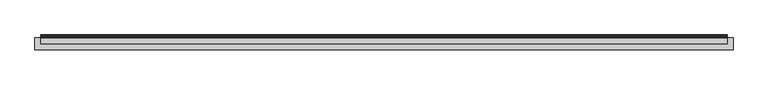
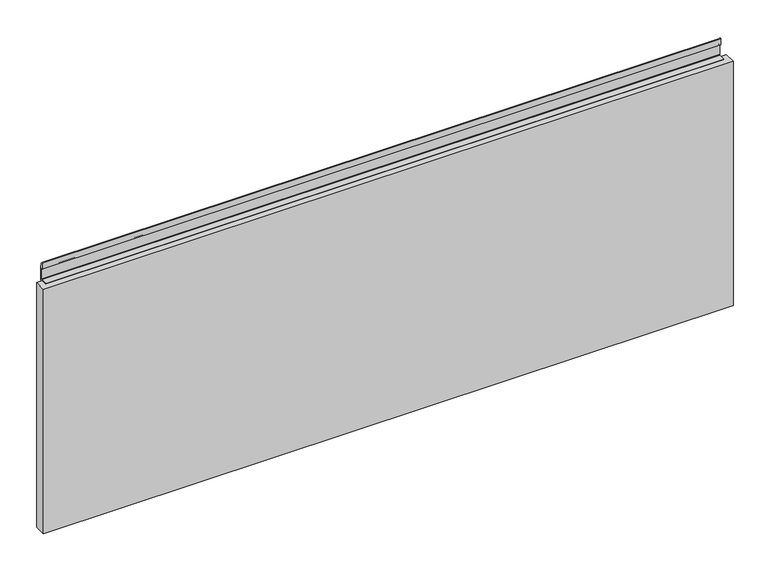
"""IFC4 building model written with IfcOpenShell, lengths in millimetres: furniture geometry, Geiger_GeigerOneCasegoods_WallTileAcceptsTileAbove : Horizontal Veneer 60Wx 1.25Dx 22.5H."""

from ifc_helpers import new_model, si_unit, point, frame, frame_2d, origin, origin_with_axes, place, context, project, spatial, polyline, circle_curve, trimmed, segment, composite_curve, outline, extrude, source, transform, mapped, element, save


def furniture_52d22a10(model_context):
    return source(origin(), model_context, "Body", "SweptSolid", [
        extrude(outline(polyline([(1524.0, 0.0), (1524.0, -26.0), (0.0, -26.0), (0.0, 0.0), (1524.0, 0.0)])), origin_with_axes(), (0.0, 0.0, 1.0), 571.5),
        extrude(outline(composite_curve([segment(polyline([(2.8956, 46.3366), (3.7084, 45.5238), (5.588, 45.5238), (6.4008, 44.7364), (6.4008, 31.3252)]), True, "CONTINUOUS"), segment(trimmed(circle_curve(frame_2d((5.6011704, 31.3252)), 0.7996296), [point((6.4008, 31.3252))], [point((5.0292, 30.7664))], False, "CARTESIAN"), True, "CONTINUOUS"), segment(polyline([(5.0292, 30.7664), (3.5052, 32.2904), (3.5052, 39.2246), (2.6924, 40.012), (0.7874, 40.012), (0.0, 40.8248), (0.0, 72.524), (1.2954, 72.524), (2.8956, 70.9238), (2.8956, 46.3366)]), True, "CONTINUOUS")], self_intersect=False)), frame((1398.0047, 0.0, 0.0), z_axis=(1.0, 0.0, 0.0), x_axis=(0.0, 1.0, 0.0)), (0.0, 0.0, 1.0), 75.9906),
        extrude(outline(composite_curve([segment(polyline([(2.8956, 46.3366), (3.7084, 45.5238), (5.588, 45.5238), (6.4008, 44.7364), (6.4008, 31.3252)]), True, "CONTINUOUS"), segment(trimmed(circle_curve(frame_2d((5.6011704, 31.3252)), 0.7996296), [point((6.4008, 31.3252))], [point((5.0292, 30.7664))], False, "CARTESIAN"), True, "CONTINUOUS"), segment(polyline([(5.0292, 30.7664), (3.5052, 32.2904), (3.5052, 39.2246), (2.6924, 40.012), (0.7874, 40.012), (0.0, 40.8248), (0.0, 72.524), (1.2954, 72.524), (2.8956, 70.9238), (2.8956, 46.3366)]), True, "CONTINUOUS")], self_intersect=False)), frame((724.0, 0.0, 0.0), z_axis=(1.0, 0.0, 0.0), x_axis=(0.0, 1.0, 0.0)), (0.0, 0.0, 1.0), 76.0),
        extrude(outline(composite_curve([segment(polyline([(3.5052, 32.2904), (3.5052, 39.2246), (2.6924, 40.012), (0.7874, 40.012), (0.0, 40.8248), (0.0, 72.524), (1.2954, 72.524), (2.8956, 70.9238), (2.8956, 46.3366), (3.7084, 45.5238), (5.588, 45.5238), (6.4008, 44.7364), (6.4008, 31.3252)]), True, "CONTINUOUS"), segment(trimmed(circle_curve(frame_2d((5.6011704, 31.3252)), 0.7996296), [point((6.4008, 31.3252))], [point((5.0292, 30.7664))], False, "CARTESIAN"), True, "CONTINUOUS"), segment(polyline([(5.0292, 30.7664), (3.5052, 32.2904)]), True, "CONTINUOUS")], self_intersect=False)), frame((49.9953, 0.0, 0.0), z_axis=(1.0, 0.0, 0.0), x_axis=(0.0, 1.0, 0.0)), (0.0, 0.0, 1.0), 76.0094),
        extrude(outline(composite_curve([segment(polyline([(2.8956, 611.7322), (2.8956, 604.798), (3.683, 604.0106), (5.588, 604.0106), (6.4008, 603.1978), (6.4008, 569.8984), (3.7084, 569.8984), (2.8956, 569.111), (2.8956, 555.395), (3.7084, 554.6076), (6.4008, 554.6076), (6.4008, 551.6866), (0.7874, 551.6866), (0.0, 552.4994), (0.0, 571.4986), (-12.5984, 571.4986), (-12.5984, 573.0988), (2.6924, 573.0988), (3.5052, 573.8862), (3.5052, 597.7114), (2.6924, 598.4988), (0.7874, 598.4988), (0.0, 599.3116), (0.0, 612.724282)]), True, "CONTINUOUS"), segment(trimmed(circle_curve(frame_2d((0.788463, 612.724282)), 0.788463), [point((0.0, 612.724282))], [point((1.3459905, 613.2818095))], False, "CARTESIAN"), True, "CONTINUOUS"), segment(polyline([(1.3459905, 613.2818095), (2.8956, 611.7322)]), True, "CONTINUOUS")], self_intersect=False)), frame((12.5, 0.0, 0.0), z_axis=(1.0, 0.0, 0.0), x_axis=(0.0, 1.0, 0.0)), (0.0, 0.0, 1.0), 1499.0),
    ])


if __name__ == "__main__":
    model = new_model("IFC4")
    model_context = context("Model", 3, world=origin())
    ifc_project = project(units=[si_unit("LENGTHUNIT", "METRE", prefix="MILLI")], contexts=[model_context])
    site = spatial("IfcSite", under=ifc_project)
    building = spatial("IfcBuilding", under=site)
    placement = place(None, origin())
    furniture_shape = furniture_52d22a10(model_context)
    element("IfcFurniture", 1, ObjectType="Geiger_GeigerOneCasegoods_WallTileAcceptsTileAbove : Horizontal Veneer 60Wx 1.25Dx 22.5H", at=placement, inside=building, context=model_context, shape_type="MappedRepresentation", body=[
        mapped(furniture_shape, transform((0.0, 0.0, 0.0), x_axis=(1.0, 0.0, 0.0), y_axis=(0.0, 1.0, 0.0), z_axis=(0.0, 0.0, 1.0))),
    ])
    save(model, "model.ifc")
